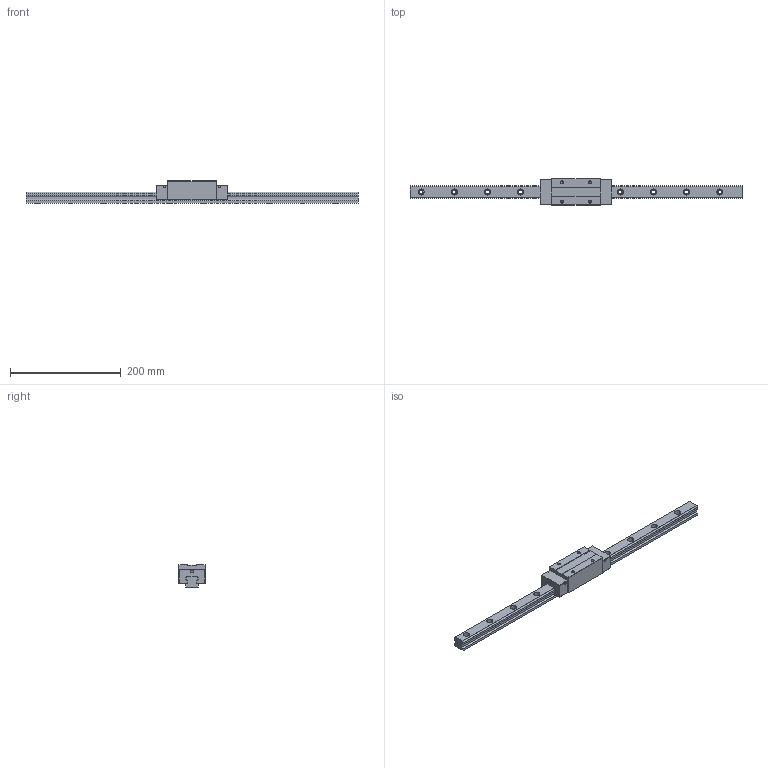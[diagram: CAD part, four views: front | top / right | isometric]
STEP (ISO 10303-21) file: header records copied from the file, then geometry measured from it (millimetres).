
FILE_DESCRIPTION (( 'STEP AP203' ), '1' );
FILE_NAME ('TRH25VE-WZ.STEP', '2024-05-17T00:58:13', ( '' ), ( '' ), 'SwSTEP 2.0', 'SolidWorks 2022', '' );
FILE_SCHEMA (( 'CONFIG_CONTROL_DESIGN' ));
Length unit declared in the file: millimetre
Products named in the file (1): TRH25VE-WZ
Bounding box: 600 x 48 x 40 mm (x, y, z)
Volume: 391210.4 mm3; surface area: 87108.2 mm2
Topology: 2 solids, 2 shells, 200 faces, 520 edges, 336 vertices
Faces by surface type: cylinder 96, plane 88, cone 16
Entity records: 6223 total; most frequent: DIRECTION 1114, CARTESIAN_POINT 1049, ORIENTED_EDGE 1024, EDGE_CURVE 512, AXIS2_PLACEMENT_3D 401, VERTEX_POINT 336, VECTOR 312, LINE 312
